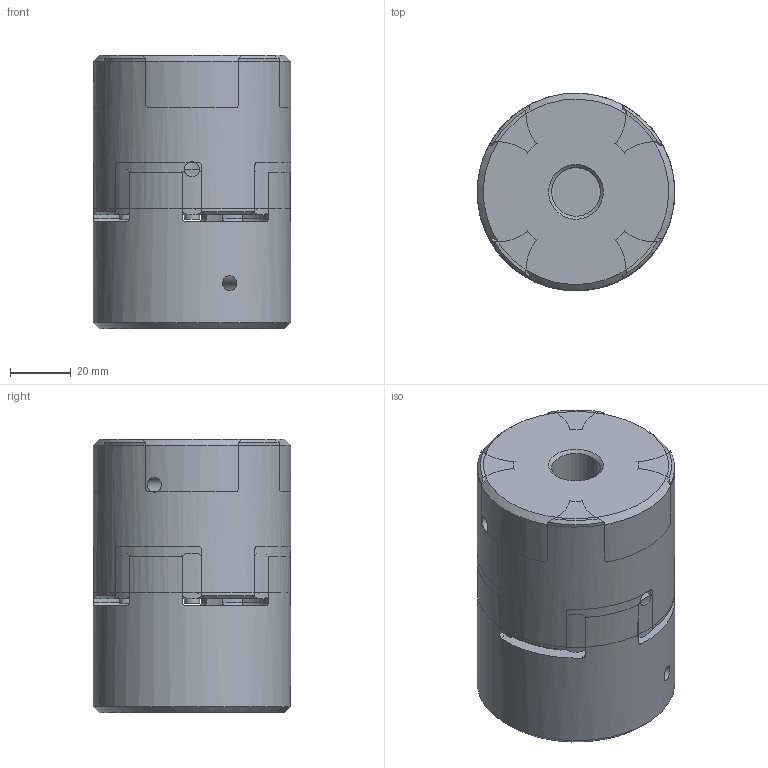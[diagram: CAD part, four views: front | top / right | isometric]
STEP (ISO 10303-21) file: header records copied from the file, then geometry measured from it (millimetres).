
FILE_DESCRIPTION( ( 'Unknown' ), '1' );
FILE_NAME( 'C:/Dokumente und Einstellungen/Sven/Desktop/homepage/cad - homepage/KBE1/KBE 1 - 28.stp', 'Unknown', ( 'Unknown' ), ( 'Unknown' ), 'XStep 1.0', 'Unknown', ' ' );
FILE_SCHEMA( ( 'automotive_design' ) );
Length unit declared in the file: millimetre
Products named in the file (3): Assem1; KBE 1 - 28_Nabe_0; Zahnkranz EK28_Standard_0
Bounding box: 65 x 65 x 90 mm (x, y, z)
Surface area: 76407.7 mm2
Topology: 5 solids, 5 shells, 333 faces, 848 edges, 545 vertices
Faces by surface type: cylinder 129, cone 123, plane 54, torus 27
Full cylindrical faces by diameter (mm): 5 x19, 16 x3, 30 x4, 65 x3
Entity records: 5246 total; most frequent: CARTESIAN_POINT 1250, DIRECTION 704, ORIENTED_EDGE 660, EDGE_CURVE 330, AXIS2_PLACEMENT_3D 328, VERTEX_POINT 222, CIRCLE 184, EDGE_LOOP 172
